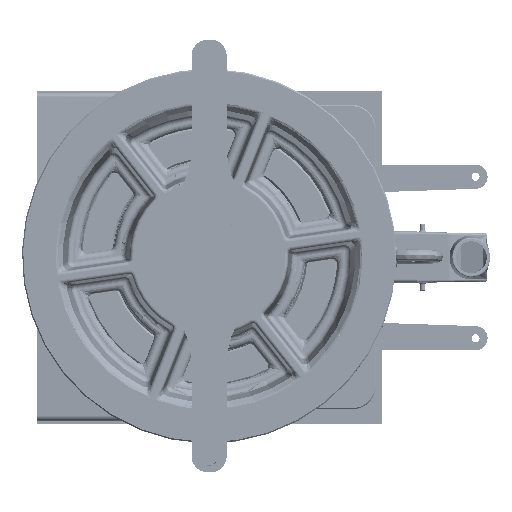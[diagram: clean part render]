
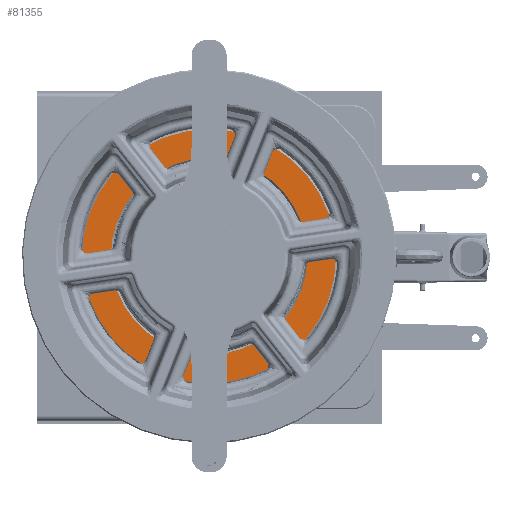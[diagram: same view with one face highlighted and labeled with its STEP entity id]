
A CAD part, top view. The second image highlights one B-rep face of the part: STEP entity #81355.
In plain terms, the highlighted planar face has unit normal (0, 0, 1).
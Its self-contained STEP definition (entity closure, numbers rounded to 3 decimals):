
#1150 = DIRECTION ( 'NONE',  ( 0., 0., 1. ) ) ;
#5597 = FACE_BOUND ( 'NONE', #67982, .T. ) ;
#6600 = FACE_OUTER_BOUND ( 'NONE', #52226, .T. ) ;
#9480 = VERTEX_POINT ( 'NONE', #98630 ) ;
#10920 = DIRECTION ( 'NONE',  ( 0., 0., -1. ) ) ;
#16730 = CARTESIAN_POINT ( 'NONE',  ( -22.337, 5.707, 229. ) ) ;
#30336 = DIRECTION ( 'NONE',  ( 0.5, -0.866, 0. ) ) ;
#34078 = AXIS2_PLACEMENT_3D ( 'NONE', #16730, #174376, #60835 ) ;
#35476 = AXIS2_PLACEMENT_3D ( 'NONE', #170115, #1150, #126088 ) ;
#46857 = CARTESIAN_POINT ( 'NONE',  ( -76.597, 99.688, 229. ) ) ;
#49727 = CARTESIAN_POINT ( 'NONE',  ( -22.337, 5.707, 229. ) ) ;
#50693 = CARTESIAN_POINT ( 'NONE',  ( 69.756, 58.877, 229. ) ) ;
#52226 = EDGE_LOOP ( 'NONE', ( #106880, #104161 ) ) ;
#54872 = VERTEX_POINT ( 'NONE', #172621 ) ;
#54979 = CARTESIAN_POINT ( 'NONE',  ( -22.337, 5.707, 229. ) ) ;
#60835 = DIRECTION ( 'NONE',  ( 0.5, -0.866, 0. ) ) ;
#67982 = EDGE_LOOP ( 'NONE', ( #176776, #98014 ) ) ;
#73393 = DIRECTION ( 'NONE',  ( 0.5, -0.866, 0. ) ) ;
#78649 = VERTEX_POINT ( 'NONE', #46857 ) ;
#80773 = AXIS2_PLACEMENT_3D ( 'NONE', #49727, #140896, #30336 ) ;
#81355 = ADVANCED_FACE ( 'NONE', ( #5597, #6600 ), #97777, .T. ) ;
#84429 = CIRCLE ( 'NONE', #35476, 108.519 ) ;
#97145 = CIRCLE ( 'NONE', #80773, 84.05 ) ;
#97777 = PLANE ( 'NONE',  #187578 ) ;
#98014 = ORIENTED_EDGE ( 'NONE', *, *, #196304, .T. ) ;
#98630 = CARTESIAN_POINT ( 'NONE',  ( 31.922, -88.273, 229. ) ) ;
#101359 = AXIS2_PLACEMENT_3D ( 'NONE', #54979, #10920, #73393 ) ;
#104161 = ORIENTED_EDGE ( 'NONE', *, *, #119277, .T. ) ;
#106880 = ORIENTED_EDGE ( 'NONE', *, *, #194329, .T. ) ;
#110300 = CARTESIAN_POINT ( 'NONE',  ( -64.362, 78.497, 229. ) ) ;
#115119 = DIRECTION ( 'NONE',  ( 0.5, -0.866, 0. ) ) ;
#116139 = DIRECTION ( 'NONE',  ( 0., 0., 1. ) ) ;
#119277 = EDGE_CURVE ( 'NONE', #78649, #9480, #151724, .T. ) ;
#123728 = VERTEX_POINT ( 'NONE', #110300 ) ;
#126088 = DIRECTION ( 'NONE',  ( 0.5, -0.866, 0. ) ) ;
#140896 = DIRECTION ( 'NONE',  ( 0., 0., -1. ) ) ;
#150484 = CIRCLE ( 'NONE', #101359, 84.05 ) ;
#151724 = CIRCLE ( 'NONE', #34078, 108.519 ) ;
#170115 = CARTESIAN_POINT ( 'NONE',  ( -22.337, 5.707, 229. ) ) ;
#172621 = CARTESIAN_POINT ( 'NONE',  ( 19.688, -67.082, 229. ) ) ;
#174376 = DIRECTION ( 'NONE',  ( 0., 0., 1. ) ) ;
#176776 = ORIENTED_EDGE ( 'NONE', *, *, #192337, .T. ) ;
#187578 = AXIS2_PLACEMENT_3D ( 'NONE', #50693, #116139, #115119 ) ;
#192337 = EDGE_CURVE ( 'NONE', #54872, #123728, #97145, .T. ) ;
#194329 = EDGE_CURVE ( 'NONE', #9480, #78649, #84429, .T. ) ;
#196304 = EDGE_CURVE ( 'NONE', #123728, #54872, #150484, .T. ) ;
